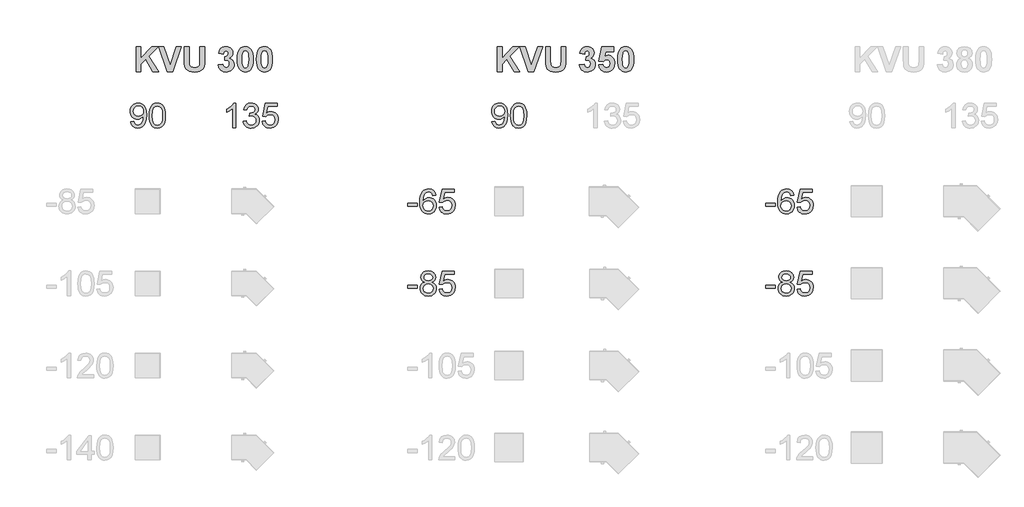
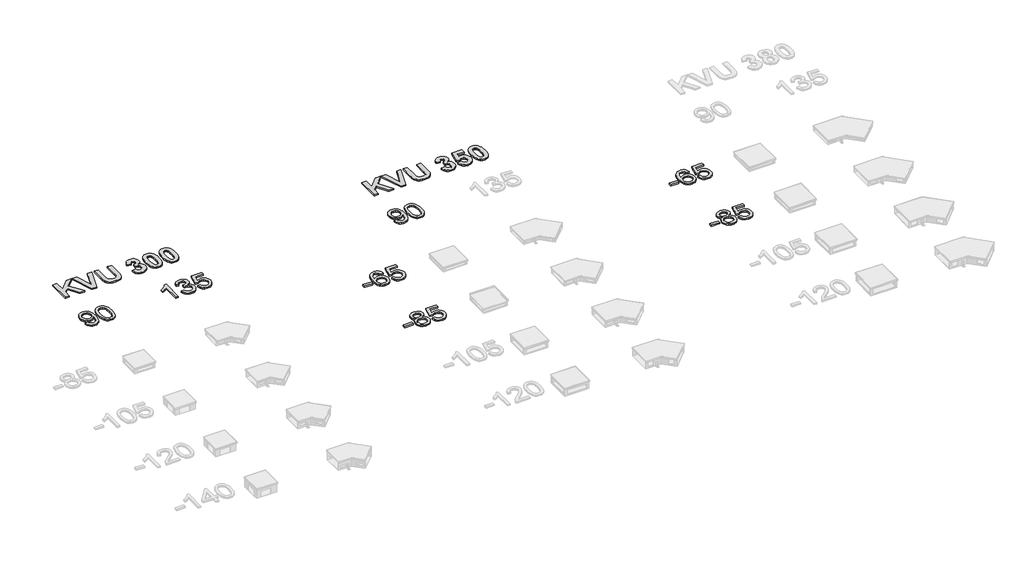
# One storey, part 5 of 6: 9 proxies.
"""IFC4 building model written with IfcOpenShell, lengths in millimetres."""

import ifcopenshell
import ifcopenshell.guid

model = None  # the IFC model being written
_history = None  # IfcOwnerHistory: only IFC2X3 demands one
_inside = {}  # id of a spatial element -> (the spatial element, [elements in it])
_under = {}  # id of a project, library or spatial element -> (it, [spatial elements below it])
_declared = {}  # id of a project -> (the project, [libraries it declares])
_typed = {}  # id of a type object -> (the type object, [elements of that type])
_made_of = {}  # id of a material, layer set ... -> (it, [elements and type objects made of it])


def new_model(schema):
    """Start an empty IFC model of exactly this schema.

    Asked for "IFC4X3", IfcOpenShell would pick the latest addendum, in which some entities
    have other attributes; the version numbers below select the first issue.
    IFC2X3 requires an IfcOwnerHistory on every rooted entity: one is made here for all.
    """
    global model, _history
    if schema == "IFC4X3":
        model = ifcopenshell.file(schema_version=(4, 3, 0, 0))
    else:
        model = ifcopenshell.file(schema=schema)
    _inside.clear()
    _under.clear()
    _declared.clear()
    _typed.clear()
    _made_of.clear()
    _history = None
    if model.schema == "IFC2X3":
        org = make("IfcOrganization", Name="unknown")
        user = make(
            "IfcPersonAndOrganization",
            ThePerson=make("IfcPerson", FamilyName="unknown"),
            TheOrganization=org,
        )
        app = make(
            "IfcApplication",
            ApplicationDeveloper=org,
            Version="unknown",
            ApplicationFullName="unknown",
            ApplicationIdentifier="unknown",
        )
        _history = make(
            "IfcOwnerHistory",
            OwningUser=user,
            OwningApplication=app,
            ChangeAction="ADDED",
            CreationDate=0,
        )
    return model


def make(cls, **values):
    """One entity of the class cls with the attributes given. An attribute that is None is left unset."""
    return model.create_entity(
        cls, **{name: value for name, value in values.items() if value is not None}
    )


def rooted(cls, **values):
    """An entity with a GlobalId (a new one), such as an element, a storey or a relation."""
    return make(cls, GlobalId=ifcopenshell.guid.new(), OwnerHistory=_history, **values)


def si_unit(unit_type, name, prefix=None):
    """IfcSIUnit, for example si_unit("LENGTHUNIT", "METRE", prefix="MILLI")."""
    return make("IfcSIUnit", UnitType=unit_type, Prefix=prefix, Name=name)


def assignment(units):
    """IfcUnitAssignment: the units of a project."""
    return None if units is None else make("IfcUnitAssignment", Units=units)


def point(xyz):
    """IfcCartesianPoint."""
    return None if xyz is None else make("IfcCartesianPoint", Coordinates=xyz)


def direction(xyz):
    """IfcDirection."""
    return None if xyz is None else make("IfcDirection", DirectionRatios=xyz)


def frame(location, z_axis=None, x_axis=None):
    """IfcAxis2Placement3D, a coordinate frame: its origin and axes. An axis left out is left unset."""
    return make(
        "IfcAxis2Placement3D",
        Location=point(location),
        Axis=direction(z_axis),
        RefDirection=direction(x_axis),
    )


def origin():
    """The frame at (0, 0, 0) with its axes left unset."""
    return frame((0.0, 0.0, 0.0))


def origin_with_axes():
    """The frame at (0, 0, 0) with the z axis (0, 0, 1) and the x axis (1, 0, 0) written out."""
    return frame((0.0, 0.0, 0.0), z_axis=(0.0, 0.0, 1.0), x_axis=(1.0, 0.0, 0.0))


def place(relative_to, where):
    """IfcLocalPlacement: puts the frame where relative to a parent placement (None: the world)."""
    return make(
        "IfcLocalPlacement", PlacementRelTo=relative_to, RelativePlacement=where
    )


def context(
    kind, dimensions, precision=None, world=None, true_north=None, identifier=None
):
    """IfcGeometricRepresentationContext, for example the 3D "Model" context."""
    return make(
        "IfcGeometricRepresentationContext",
        ContextIdentifier=identifier,
        ContextType=kind,
        CoordinateSpaceDimension=dimensions,
        Precision=precision,
        WorldCoordinateSystem=world,
        TrueNorth=true_north,
    )


def project(units=None, contexts=None):
    """IfcProject with its units and contexts."""
    return rooted(
        "IfcProject",
        Name="project",
        RepresentationContexts=contexts,
        UnitsInContext=assignment(units),
    )


def spatial(cls, under=None, at=None, **own):
    """A site, building, storey or space (cls), placed at a placement, below another one or the project."""
    s = rooted(cls, ObjectPlacement=at, **own)
    if under is not None:
        _under.setdefault(under.id(), (under, []))[1].append(s)
    return s


def polyline(points):
    """IfcPolyline through the points."""
    return make("IfcPolyline", Points=[point(p) for p in points])


def outline(outer, holes=None, kind="AREA"):
    """IfcArbitraryClosedProfileDef: a profile drawn as a closed curve; with holes, ...WithVoids."""
    if holes is None:
        return make("IfcArbitraryClosedProfileDef", ProfileType=kind, OuterCurve=outer)
    return make(
        "IfcArbitraryProfileDefWithVoids",
        ProfileType=kind,
        OuterCurve=outer,
        InnerCurves=holes,
    )


def extrude(swept, where, along, depth):
    """IfcExtrudedAreaSolid: the profile swept, set in the frame where, extruded along a direction by depth."""
    return make(
        "IfcExtrudedAreaSolid",
        SweptArea=swept,
        Position=where,
        ExtrudedDirection=direction(along),
        Depth=depth,
    )


def shape(context_of_items, identifier, shape_type, items):
    """IfcShapeRepresentation: the items that make up one representation, for example the "Body"."""
    return make(
        "IfcShapeRepresentation",
        ContextOfItems=context_of_items,
        RepresentationIdentifier=identifier,
        RepresentationType=shape_type,
        Items=items,
    )


def made_of(thing, what):
    """Note that an element or type object is made of a material, layer set ...; save() writes the relation."""
    if what is not None:
        _made_of.setdefault(what.id(), (what, []))[1].append(thing)
    return thing


def element(
    cls,
    number,
    at=None,
    inside=None,
    cuts=None,
    type_object=None,
    material=None,
    context=None,
    identifier="Body",
    shape_type=None,
    held_by="IfcProductDefinitionShape",
    body=None,
    shapes=None,
    **own,
):
    """One element of the class cls, such as IfcWall. Its Tag is "e" and its number.

    at: its placement. inside: the storey or other place that contains it. cuts: it is an
    opening in that element (IfcRelVoidsElement). A single representation is given by context,
    identifier, shape_type and body (its items); several are given by shapes. held_by: the class
    of the entity that holds the representations. save() writes the other relations.
    """
    e = rooted(cls, Tag="e%d" % number, ObjectPlacement=at, **own)
    if body is not None:
        shapes = [shape(context, identifier, shape_type, body)]
    if shapes is not None:
        e.Representation = make(held_by, Representations=shapes)
    if inside is not None:
        _inside.setdefault(inside.id(), (inside, []))[1].append(e)
    if cuts is not None:
        rooted(
            "IfcRelVoidsElement", RelatingBuildingElement=cuts, RelatedOpeningElement=e
        )
    if type_object is not None:
        _typed.setdefault(type_object.id(), (type_object, []))[1].append(e)
    return made_of(e, material)


def aggregate(whole, parts):
    """IfcRelAggregates: a whole, such as a stair, and the parts it consists of."""
    return rooted("IfcRelAggregates", RelatingObject=whole, RelatedObjects=parts)


def save(model, path):
    """Write the relations noted so far, then the file.

    IfcRelAggregates (storeys below a building ...), IfcRelContainedInSpatialStructure (elements
    in a storey), IfcRelDefinesByType, IfcRelAssociatesMaterial and IfcRelDeclares: one each for
    every whole, place, type object, material and project.
    """
    for whole, parts in _under.values():
        aggregate(whole, parts)
    for where, things in _inside.values():
        rooted(
            "IfcRelContainedInSpatialStructure",
            RelatedElements=things,
            RelatingStructure=where,
        )
    for kind, things in _typed.values():
        rooted("IfcRelDefinesByType", RelatedObjects=things, RelatingType=kind)
    for what, things in _made_of.values():
        rooted("IfcRelAssociatesMaterial", RelatedObjects=things, RelatingMaterial=what)
    for by, libraries in _declared.values():
        rooted("IfcRelDeclares", RelatingContext=by, RelatedDefinitions=libraries)
    model.write(path)


model = new_model("IFC4")

# Units and contexts
model_context = context("Model", 3, world=origin())
ifc_project = project(units=[si_unit("LENGTHUNIT", "METRE", prefix="MILLI")], contexts=[model_context])

# Site, building, storey
site = spatial("IfcSite", under=ifc_project)
building = spatial("IfcBuilding", under=site)
storey = spatial("IfcBuildingStorey", under=building, Name="Этаж 01", Elevation=0.0)

# Proxies
placement = place(None, origin())
element("IfcBuildingElementProxy", 1, Name="300", ObjectType="300", at=placement, inside=storey, context=model_context, shape_type="SweptSolid", body=[
    extrude(outline(polyline([(10271.5266107, 2189.3511025), (10309.197727, 2194.0599921), (10315.6356619, 2172.6768511), (10326.1202987, 2158.1179211), (10340.3941202, 2149.7578028), (10358.1996087, 2146.9710967), (10374.1748844, 2148.7645214), (10388.6970261, 2154.1447956), (10400.7635556, 2162.523308), (10409.3719943, 2173.3114475), (10421.6960411, 2206.0529451), (10427.1406946, 2249.7573261), (10426.9199654, 2257.114966), (10413.8693516, 2241.1856756), (10396.79043, 2228.5673232), (10376.9156052, 2220.3451606), (10355.477282, 2217.6044398), (10337.5821222, 2219.2783028), (10321.1263007, 2224.2998921), (10306.1098175, 2232.6692075), (10292.5326726, 2244.386249), (10281.2823813, 2258.8394129), (10273.246459, 2275.4170953), (10268.4249056, 2294.1192962), (10266.8177211, 2314.9460157), (10268.5030805, 2336.4671124), (10273.5591587, 2355.7809171), (10281.9859556, 2372.8874299), (10293.7834714, 2387.7866507), (10308.1193729, 2399.8577787), (10324.1613271, 2408.4800129), (10341.9093341, 2413.6533535), (10361.3633939, 2415.3778004), (10389.4603813, 2411.441463), (10415.037377, 2399.632451), (10436.429715, 2380.5393754), (10451.9727293, 2354.7508476), (10461.4364936, 2319.1030822), (10464.5910817, 2270.4322943), (10461.4456907, 2218.8276474), (10452.0095175, 2178.9400421), (10436.3653357, 2148.9668565), (10414.5959186, 2127.1054689), (10387.6393654, 2113.7513525), (10356.4337752, 2109.2999804), (10324.2257065, 2114.5514959), (10298.5291491, 2130.3060423), (10280.5581136, 2155.5703383), (10271.5266107, 2189.3511025)]), holes=[polyline([(10426.9199654, 2315.8289325), (10422.8548694, 2341.3599429), (10410.6595812, 2361.0048415), (10391.7320526, 2373.5312234), (10367.470235, 2377.7066841), (10342.3071065, 2373.2093267), (10322.1471732, 2359.7172545), (10308.9034214, 2339.0698775), (10304.4888374, 2313.1066057), (10308.6642981, 2289.8288725), (10321.19068, 2271.3519992), (10340.8539727, 2259.2946669), (10366.4401654, 2255.2755561), (10390.508845, 2259.2946669), (10409.8870291, 2271.3519992), (10422.6617313, 2290.5094541), (10426.9199654, 2315.8289325)])]), origin_with_axes(), (0.0, 0.0, 1.0), 20.0),
    extrude(outline(polyline([(10497.5533085, 2262.265314), (10500.3216205, 2310.5038406), (10508.6265566, 2348.9751002), (10522.3853432, 2378.2677041), (10541.5152069, 2398.9702634), (10566.1541036, 2411.2759161), (10596.4399888, 2415.3778004), (10619.6533427, 2412.9497792), (10640.4386754, 2405.6657157), (10657.8210997, 2393.8107184), (10670.8257282, 2377.6698959), (10680.6481775, 2357.3812038), (10688.484064, 2333.082598), (10693.6160178, 2302.2264957), (10695.3266691, 2262.265314), (10692.5859482, 2214.3026988), (10684.3637857, 2175.9234097), (10670.6877725, 2146.6032147), (10651.5854999, 2125.817882), (10626.891421, 2113.4294558), (10596.4399888, 2109.2999804), (10575.6914443, 2111.0934051), (10557.2973445, 2116.4736793), (10541.2576895, 2125.4408029), (10527.5724793, 2137.994776), (10514.4390921, 2160.6884966), (10505.0581012, 2188.9648264), (10499.4295067, 2222.8237656), (10497.5533085, 2262.265314)]), holes=[polyline([(10535.2244248, 2262.3388904), (10539.6390087, 2203.082298), (10545.1572387, 2182.8142993), (10552.8827606, 2168.786499), (10572.6012355, 2152.4249473), (10596.4399888, 2146.9710967), (10620.2787421, 2152.4433414), (10639.997217, 2168.8600754), (10647.7227389, 2182.9108683), (10653.2409689, 2203.1742685), (10657.6555528, 2262.3388904), (10653.3881217, 2320.2619105), (10648.0538327, 2340.4632306), (10640.5858282, 2354.824424), (10620.9041415, 2371.986119), (10595.9985304, 2377.7066841), (10572.4172945, 2372.6667007), (10553.4713718, 2357.5467507), (10545.4883325, 2341.9117659), (10539.7861615, 2320.8321276), (10535.2244248, 2262.3388904)])]), origin_with_axes(), (0.0, 0.0, 1.0), 20.0),
])
element("IfcBuildingElementProxy", 2, Name="300", ObjectType="300", at=placement, inside=storey, context=model_context, shape_type="SweptSolid", body=[
    extrude(outline(polyline([(11552.7166136, 2114.0088699), (11515.0454973, 2114.0088699), (11515.0454973, 2348.8647356), (11479.3609437, 2323.4440898), (11439.7032647, 2304.4245906), (11439.7032647, 2340.0355677), (11469.2901741, 2356.130405), (11494.9223521, 2375.2786629), (11515.1282707, 2395.6409313), (11528.4364019, 2415.3778004), (11552.7166136, 2415.3778004), (11552.7166136, 2114.0088699)])), origin_with_axes(), (0.0, 0.0, 1.0), 20.0),
    extrude(outline(polyline([(11642.1855148, 2194.0599921), (11679.8566311, 2198.7688816), (11688.2903259, 2175.0956752), (11700.6419638, 2159.1112025), (11717.5185504, 2150.0061231), (11739.5270907, 2146.9710967), (11765.3524068, 2151.1465573), (11785.2916109, 2163.6729393), (11798.0387221, 2182.3613446), (11802.2877591, 2205.0228755), (11798.0755103, 2226.5347752), (11785.4387637, 2243.9815788), (11766.3089, 2255.5422705), (11742.6172995, 2259.3958344), (11716.2033722, 2255.2755561), (11720.397227, 2292.9466724), (11726.4304917, 2292.505214), (11749.0000521, 2295.2091466), (11769.1783795, 2303.3209446), (11783.4154128, 2317.042943), (11788.1610905, 2336.577477), (11784.7213938, 2352.8470582), (11774.4023039, 2366.0448248), (11758.6569545, 2374.7912192), (11738.9384795, 2377.7066841), (11719.1832164, 2374.7636281), (11703.0331968, 2365.9344602), (11691.2425789, 2351.2191804), (11684.5655207, 2330.6177887), (11646.8944044, 2335.3266782), (11657.9860465, 2369.1534277), (11677.7229155, 2394.4085266), (11704.725454, 2410.1354819), (11737.6141044, 2415.3778004), (11761.2965078, 2412.7934293), (11783.0475308, 2405.0403163), (11801.3864482, 2392.80824), (11814.8325351, 2376.7869791), (11823.0822889, 2358.3285), (11825.8322068, 2338.784769), (11823.2202446, 2320.5746102), (11815.3843581, 2304.0567086), (11802.4349119, 2289.9852223), (11784.4822705, 2279.1143093), (11808.0635064, 2269.5861657), (11825.5379012, 2253.3625697), (11836.3536319, 2231.3264382), (11839.9588754, 2204.3606879), (11838.1562536, 2185.2492183), (11832.7483883, 2167.6460648), (11823.7352794, 2151.5512275), (11811.116927, 2136.9647064), (11795.7440581, 2124.8613888), (11778.4673999, 2116.2161619), (11759.2869524, 2111.0290257), (11738.2027156, 2109.2999804), (11719.1464282, 2110.7761069), (11701.782398, 2115.2044864), (11686.110625, 2122.5851189), (11672.1311092, 2132.9180045), (11660.4094691, 2145.5961377), (11651.5113234, 2160.0125134), (11645.4366719, 2176.1671315), (11642.1855148, 2194.0599921)])), origin_with_axes(), (0.0, 0.0, 1.0), 20.0),
    extrude(outline(polyline([(11872.9211022, 2194.0599921), (11910.5922185, 2198.7688816), (11917.5084, 2176.1533359), (11929.5749294, 2159.9573311), (11946.7366245, 2150.2176553), (11968.9383029, 2146.9710967), (11995.9408414, 2151.4868482), (12016.1743511, 2165.0341026), (12028.8110976, 2186.0493616), (12033.0233465, 2212.9691266), (12029.0778121, 2238.3161961), (12017.2412089, 2257.7035772), (11997.4215664, 2270.00923), (11969.5269141, 2274.1111142), (11951.252376, 2272.4740393), (11936.4543228, 2267.5628147), (11915.301108, 2250.5666665), (11877.6299917, 2255.2755561), (11910.5922185, 2410.6689108), (12056.5677942, 2410.6689108), (12056.5677942, 2372.9977945), (11941.0528477, 2372.9977945), (11924.9396163, 2290.0036164), (11951.8501843, 2306.337577), (11980.0483392, 2311.7822305), (11998.3941544, 2310.0945719), (12015.2454491, 2305.0315959), (12030.6022231, 2296.5933026), (12044.4644765, 2284.7796921), (12055.9400955, 2270.3127326), (12064.1369662, 2253.9143927), (12069.0550887, 2235.5846723), (12070.6944628, 2215.3235714), (12064.7899568, 2177.6524551), (12057.4093242, 2160.858642), (12047.0764387, 2145.4259923), (12031.4230598, 2129.6208621), (12013.1577187, 2118.3314834), (11992.2804155, 2111.5578561), (11968.7911501, 2109.2999804), (11931.7914185, 2115.1033188), (11916.1127477, 2122.3574919), (11902.3148736, 2132.5133343), (11890.8346561, 2145.0650081), (11882.108955, 2159.5066757), (11872.9211022, 2194.0599921)])), origin_with_axes(), (0.0, 0.0, 1.0), 20.0),
])
element("IfcBuildingElementProxy", 3, Name="300", ObjectType="300", at=placement, inside=storey, context=model_context, shape_type="SweptSolid", body=[
    extrude(outline(polyline([(14671.5266107, 2189.3511025), (14709.197727, 2194.0599921), (14715.6356619, 2172.6768511), (14726.1202987, 2158.1179211), (14740.3941202, 2149.7578028), (14758.1996087, 2146.9710967), (14774.1748844, 2148.7645214), (14788.6970261, 2154.1447956), (14800.7635556, 2162.523308), (14809.3719943, 2173.3114475), (14821.6960411, 2206.0529451), (14827.1406946, 2249.7573261), (14826.9199654, 2257.114966), (14813.8693516, 2241.1856756), (14796.79043, 2228.5673232), (14776.9156052, 2220.3451606), (14755.477282, 2217.6044398), (14737.5821222, 2219.2783028), (14721.1263007, 2224.2998921), (14706.1098175, 2232.6692075), (14692.5326726, 2244.386249), (14681.2823813, 2258.8394129), (14673.246459, 2275.4170953), (14668.4249056, 2294.1192962), (14666.8177211, 2314.9460157), (14668.5030805, 2336.4671124), (14673.5591587, 2355.7809171), (14681.9859556, 2372.8874299), (14693.7834714, 2387.7866507), (14708.1193729, 2399.8577787), (14724.1613271, 2408.4800129), (14741.9093341, 2413.6533535), (14761.3633939, 2415.3778004), (14789.4603813, 2411.441463), (14815.037377, 2399.632451), (14836.429715, 2380.5393754), (14851.9727293, 2354.7508476), (14861.4364936, 2319.1030822), (14864.5910817, 2270.4322943), (14861.4456907, 2218.8276474), (14852.0095175, 2178.9400421), (14836.3653357, 2148.9668565), (14814.5959186, 2127.1054689), (14787.6393654, 2113.7513525), (14756.4337752, 2109.2999804), (14724.2257065, 2114.5514959), (14698.5291491, 2130.3060423), (14680.5581136, 2155.5703383), (14671.5266107, 2189.3511025)]), holes=[polyline([(14826.9199654, 2315.8289325), (14822.8548694, 2341.3599429), (14810.6595812, 2361.0048415), (14791.7320526, 2373.5312234), (14767.470235, 2377.7066841), (14742.3071065, 2373.2093267), (14722.1471732, 2359.7172545), (14708.9034214, 2339.0698775), (14704.4888374, 2313.1066057), (14708.6642981, 2289.8288725), (14721.19068, 2271.3519992), (14740.8539727, 2259.2946669), (14766.4401654, 2255.2755561), (14790.508845, 2259.2946669), (14809.8870291, 2271.3519992), (14822.6617313, 2290.5094541), (14826.9199654, 2315.8289325)])]), origin_with_axes(), (0.0, 0.0, 1.0), 20.0),
    extrude(outline(polyline([(14897.5533085, 2262.265314), (14900.3216205, 2310.5038406), (14908.6265566, 2348.9751002), (14922.3853432, 2378.2677041), (14941.5152069, 2398.9702634), (14966.1541036, 2411.2759161), (14996.4399888, 2415.3778004), (15019.6533427, 2412.9497792), (15040.4386754, 2405.6657157), (15057.8210997, 2393.8107184), (15070.8257282, 2377.6698959), (15080.6481775, 2357.3812038), (15088.484064, 2333.082598), (15093.6160178, 2302.2264957), (15095.3266691, 2262.265314), (15092.5859482, 2214.3026988), (15084.3637857, 2175.9234097), (15070.6877725, 2146.6032147), (15051.5854999, 2125.817882), (15026.891421, 2113.4294558), (14996.4399888, 2109.2999804), (14975.6914443, 2111.0934051), (14957.2973445, 2116.4736793), (14941.2576895, 2125.4408029), (14927.5724793, 2137.994776), (14914.4390921, 2160.6884966), (14905.0581012, 2188.9648264), (14899.4295067, 2222.8237656), (14897.5533085, 2262.265314)]), holes=[polyline([(14935.2244248, 2262.3388904), (14939.6390087, 2203.082298), (14945.1572387, 2182.8142993), (14952.8827606, 2168.786499), (14972.6012355, 2152.4249473), (14996.4399888, 2146.9710967), (15020.2787421, 2152.4433414), (15039.997217, 2168.8600754), (15047.7227389, 2182.9108683), (15053.2409689, 2203.1742685), (15057.6555528, 2262.3388904), (15053.3881217, 2320.2619105), (15048.0538327, 2340.4632306), (15040.5858282, 2354.824424), (15020.9041415, 2371.986119), (14995.9985304, 2377.7066841), (14972.4172945, 2372.6667007), (14953.4713718, 2357.5467507), (14945.4883325, 2341.9117659), (14939.7861615, 2320.8321276), (14935.2244248, 2262.3388904)])]), origin_with_axes(), (0.0, 0.0, 1.0), 20.0),
])
element("IfcBuildingElementProxy", 4, Name="300", ObjectType="300", at=placement, inside=storey, context=model_context, shape_type="SweptSolid", body=[
    extrude(outline(polyline([(13646.6903592, 157.6054217), (13646.6903592, 195.276538), (13764.4125977, 195.276538), (13764.4125977, 157.6054217), (13646.6903592, 157.6054217)])), origin_with_axes(), (0.0, 0.0, 1.0), 20.0),
    extrude(outline(polyline([(13852.2628181, 234.1248767), (13832.0936877, 244.0576906), (13817.939428, 257.5221716), (13809.5793096, 274.2424083), (13806.7926035, 293.9424891), (13808.3101167, 309.3061609), (13812.8626564, 323.3914428), (13820.4502226, 336.1983348), (13831.0728152, 347.7268368), (13844.219998, 357.2549805), (13859.3813347, 364.0607974), (13895.74647, 369.5054509), (13932.3323344, 363.9320387), (13947.659218, 356.9652734), (13961.0087359, 347.211802), (13971.8244666, 335.4579723), (13979.5499885, 322.4901319), (13984.1853016, 308.308281), (13985.730406, 292.9124195), (13982.9804881, 273.8469351), (13974.7307343, 257.411807), (13960.8891742, 244.0300994), (13941.3638374, 234.1248767), (13964.5496001, 222.1779089), (13981.4261866, 204.5839525), (13991.7176854, 182.189136), (13995.148185, 155.8395881), (13993.4467308, 137.0500152), (13988.3423681, 119.8239408), (13979.835097, 104.1613649), (13967.9249174, 90.0622874), (13953.2372287, 78.4096252), (13936.3974304, 70.0862951), (13917.4055224, 65.092297), (13896.2615047, 63.4276309), (13875.1174871, 65.0991948), (13856.1255791, 70.1138862), (13839.2857807, 78.4717053), (13824.5980921, 90.172652), (13812.6879125, 104.3705977), (13804.1806414, 120.2194139), (13799.0762787, 137.7191006), (13797.3748244, 156.8696577), (13800.9432798, 184.2400782), (13811.6486459, 206.7544563), (13828.9390996, 223.6402398), (13852.2628181, 234.1248767)]), holes=[polyline([(13844.4637198, 292.8388431), (13847.8022489, 276.3945179), (13857.8178362, 263.2611307), (13874.2161762, 254.652692), (13896.7029631, 251.7832125), (13918.6655183, 254.6342979), (13934.8155378, 263.1875543), (13944.7483517, 275.8794832), (13948.0592897, 291.146586), (13944.6379871, 306.9931029), (13934.3740794, 320.098899), (13918.0033307, 328.9004757), (13896.2615047, 331.8343346), (13874.3817231, 328.9648551), (13858.0385654, 320.3564164), (13847.8574312, 307.7380639), (13844.4637198, 292.8388431)]), polyline([(13835.0459407, 158.1940329), (13841.3367229, 129.8303311), (13850.0463291, 117.6626341), (13863.5935836, 108.6035399), (13879.8171796, 102.9749454), (13896.5558103, 101.0987472), (13922.1971854, 105.0442816), (13941.4374138, 116.8808848), (13953.467155, 134.8059351), (13957.4770687, 157.0168105), (13953.3383963, 179.604765), (13940.922379, 197.9252884), (13921.2406922, 210.0653942), (13895.3050116, 214.1120962), (13870.0223214, 210.1205765), (13850.9752311, 198.1460176), (13839.0282633, 180.1749821), (13835.0459407, 158.1940329)])]), origin_with_axes(), (0.0, 0.0, 1.0), 20.0),
    extrude(outline(polyline([(14028.1104118, 148.1876426), (14065.7815281, 152.8965322), (14072.6977096, 130.2809865), (14084.7642391, 114.0849817), (14101.9259341, 104.3453059), (14124.1276126, 101.0987472), (14151.130151, 105.6144987), (14171.3636607, 119.1617532), (14184.0004073, 140.1770122), (14188.2126561, 167.0967772), (14184.2671217, 192.4438466), (14172.4305185, 211.8312278), (14152.610876, 224.1368805), (14124.7162238, 228.2387648), (14106.4416856, 226.6016899), (14091.6436324, 221.6904653), (14070.4904177, 204.6943171), (14032.8193014, 209.4032066), (14065.7815281, 364.7965614), (14211.7571038, 364.7965614), (14211.7571038, 327.1254451), (14096.2421573, 327.1254451), (14080.1289259, 244.131267), (14107.0394939, 260.4652276), (14135.2376488, 265.9098811), (14153.5834641, 264.2222224), (14170.4347587, 259.1592465), (14185.7915327, 250.7209532), (14199.6537862, 238.9073426), (14211.1294052, 224.4403832), (14219.3262759, 208.0420432), (14224.2443983, 189.7123228), (14225.8837724, 169.4512219), (14219.9792664, 131.7801056), (14212.5986339, 114.9862926), (14202.2657483, 99.5536429), (14186.6123694, 83.7485126), (14168.3470284, 72.4591339), (14147.4697252, 65.6855067), (14123.9804598, 63.4276309), (14086.9807281, 69.2309694), (14071.3020573, 76.4851425), (14057.5041832, 86.6409848), (14046.0239657, 99.1926587), (14037.2982646, 113.6343262), (14028.1104118, 148.1876426)])), origin_with_axes(), (0.0, 0.0, 1.0), 20.0),
])
element("IfcBuildingElementProxy", 5, Name="300", ObjectType="300", at=placement, inside=storey, context=model_context, shape_type="SweptSolid", body=[
    extrude(outline(polyline([(13646.6903592, 1157.6054217), (13646.6903592, 1195.276538), (13764.4125977, 1195.276538), (13764.4125977, 1157.6054217), (13646.6903592, 1157.6054217)])), origin_with_axes(), (0.0, 0.0, 1.0), 20.0),
    extrude(outline(polyline([(13990.4392955, 1289.4543288), (13952.7681792, 1284.7454392), (13946.6981263, 1303.4154505), (13938.4943578, 1316.1625616), (13921.4062391, 1327.9163914), (13900.7496651, 1331.8343346), (13883.2384821, 1329.5534662), (13866.7573687, 1322.7108611), (13852.603109, 1308.299084), (13841.0424173, 1288.4610474), (13833.2341219, 1260.4008482), (13830.3370512, 1221.3225833), (13845.4478042, 1238.9533279), (13863.5567954, 1251.3785423), (13883.6523494, 1258.7453792), (13904.7227906, 1261.2009915), (13922.8225848, 1259.5225299), (13939.5244274, 1254.4871451), (13954.8283184, 1246.0948371), (13968.7342578, 1234.3456059), (13980.290351, 1219.9384273), (13988.5447032, 1203.572277), (13993.4973146, 1185.2471551), (13995.148185, 1164.9630616), (13992.0395822, 1137.9881143), (13982.7137736, 1112.9813357), (13967.9433115, 1091.7729387), (13948.5007481, 1076.1931362), (13925.2690001, 1066.6190072), (13899.1309843, 1063.4276309), (13876.6740878, 1065.5429524), (13856.3922935, 1071.8889168), (13838.2856016, 1082.4655242), (13822.3540119, 1097.2727745), (13809.3654782, 1116.9360671), (13800.0879542, 1142.0808015), (13794.5214397, 1172.7069776), (13792.6659349, 1208.8145954), (13794.7260741, 1249.2954105), (13800.9064916, 1283.8441283), (13811.2071875, 1312.460749), (13825.6281617, 1335.1452726), (13841.2585479, 1350.1778506), (13859.3813347, 1360.9154063), (13879.996522, 1367.3579398), (13903.1041099, 1369.5054509), (13936.1583071, 1364.1895561), (13962.6274167, 1348.2418716), (13981.1686692, 1322.9131962), (13990.4392955, 1289.4543288)]), holes=[polyline([(13830.3370512, 1165.5516728), (13832.516752, 1148.8590273), (13839.0558545, 1132.9205398), (13849.2093976, 1119.2169355), (13862.2324202, 1109.2289393), (13877.9501784, 1103.1312953), (13896.1879283, 1101.0987472), (13921.0475542, 1105.3109961), (13940.5912852, 1117.9477426), (13953.2556228, 1137.8133704), (13957.4770687, 1163.7122628), (13953.3108051, 1188.5718886), (13940.8120144, 1207.5270084), (13920.9371896, 1219.5291585), (13894.642824, 1223.5298752), (13869.8199863, 1219.5291585), (13849.0622448, 1207.5270084), (13835.0183496, 1189.0317411), (13830.3370512, 1165.5516728)])]), origin_with_axes(), (0.0, 0.0, 1.0), 20.0),
    extrude(outline(polyline([(14028.1104118, 1148.1876426), (14065.7815281, 1152.8965322), (14072.6977096, 1130.2809865), (14084.7642391, 1114.0849817), (14101.9259341, 1104.3453059), (14124.1276126, 1101.0987472), (14151.130151, 1105.6144987), (14171.3636607, 1119.1617532), (14184.0004073, 1140.1770122), (14188.2126561, 1167.0967772), (14184.2671217, 1192.4438466), (14172.4305185, 1211.8312278), (14152.610876, 1224.1368805), (14124.7162238, 1228.2387648), (14106.4416856, 1226.6016899), (14091.6436324, 1221.6904653), (14070.4904177, 1204.6943171), (14032.8193014, 1209.4032066), (14065.7815281, 1364.7965614), (14211.7571038, 1364.7965614), (14211.7571038, 1327.1254451), (14096.2421573, 1327.1254451), (14080.1289259, 1244.131267), (14107.0394939, 1260.4652276), (14135.2376488, 1265.9098811), (14153.5834641, 1264.2222224), (14170.4347587, 1259.1592465), (14185.7915327, 1250.7209532), (14199.6537862, 1238.9073426), (14211.1294052, 1224.4403832), (14219.3262759, 1208.0420432), (14224.2443983, 1189.7123228), (14225.8837724, 1169.4512219), (14219.9792664, 1131.7801056), (14212.5986339, 1114.9862926), (14202.2657483, 1099.5536429), (14186.6123694, 1083.7485126), (14168.3470284, 1072.4591339), (14147.4697252, 1065.6855067), (14123.9804598, 1063.4276309), (14086.9807281, 1069.2309694), (14071.3020573, 1076.4851425), (14057.5041832, 1086.6409848), (14046.0239657, 1099.1926587), (14037.2982646, 1113.6343262), (14028.1104118, 1148.1876426)])), origin_with_axes(), (0.0, 0.0, 1.0), 20.0),
])
element("IfcBuildingElementProxy", 6, Name="300", ObjectType="300", at=placement, inside=storey, context=model_context, shape_type="SweptSolid", body=[
    extrude(outline(polyline([(18006.6903592, 157.6054217), (18006.6903592, 195.276538), (18124.4125977, 195.276538), (18124.4125977, 157.6054217), (18006.6903592, 157.6054217)])), origin_with_axes(), (0.0, 0.0, 1.0), 20.0),
    extrude(outline(polyline([(18212.2628181, 234.1248767), (18192.0936877, 244.0576906), (18177.939428, 257.5221716), (18169.5793096, 274.2424083), (18166.7926035, 293.9424891), (18168.3101167, 309.3061609), (18172.8626564, 323.3914428), (18180.4502226, 336.1983348), (18191.0728152, 347.7268368), (18204.219998, 357.2549805), (18219.3813347, 364.0607974), (18255.74647, 369.5054509), (18292.3323344, 363.9320387), (18307.659218, 356.9652734), (18321.0087359, 347.211802), (18331.8244666, 335.4579723), (18339.5499885, 322.4901319), (18344.1853016, 308.308281), (18345.730406, 292.9124195), (18342.9804881, 273.8469351), (18334.7307343, 257.411807), (18320.8891742, 244.0300994), (18301.3638374, 234.1248767), (18324.5496001, 222.1779089), (18341.4261866, 204.5839525), (18351.7176854, 182.189136), (18355.148185, 155.8395881), (18353.4467308, 137.0500152), (18348.3423681, 119.8239408), (18339.835097, 104.1613649), (18327.9249174, 90.0622874), (18313.2372287, 78.4096252), (18296.3974304, 70.0862951), (18277.4055224, 65.092297), (18256.2615047, 63.4276309), (18235.1174871, 65.0991948), (18216.1255791, 70.1138862), (18199.2857807, 78.4717053), (18184.5980921, 90.172652), (18172.6879125, 104.3705977), (18164.1806414, 120.2194139), (18159.0762787, 137.7191006), (18157.3748244, 156.8696577), (18160.9432798, 184.2400782), (18171.6486459, 206.7544563), (18188.9390996, 223.6402398), (18212.2628181, 234.1248767)]), holes=[polyline([(18204.4637198, 292.8388431), (18207.8022489, 276.3945179), (18217.8178362, 263.2611307), (18234.2161762, 254.652692), (18256.7029631, 251.7832125), (18278.6655183, 254.6342979), (18294.8155378, 263.1875543), (18304.7483517, 275.8794832), (18308.0592897, 291.146586), (18304.6379871, 306.9931029), (18294.3740794, 320.098899), (18278.0033307, 328.9004757), (18256.2615047, 331.8343346), (18234.3817231, 328.9648551), (18218.0385654, 320.3564164), (18207.8574312, 307.7380639), (18204.4637198, 292.8388431)]), polyline([(18195.0459407, 158.1940329), (18201.3367229, 129.8303311), (18210.0463291, 117.6626341), (18223.5935836, 108.6035399), (18239.8171796, 102.9749454), (18256.5558103, 101.0987472), (18282.1971854, 105.0442816), (18301.4374138, 116.8808848), (18313.467155, 134.8059351), (18317.4770687, 157.0168105), (18313.3383963, 179.604765), (18300.922379, 197.9252884), (18281.2406922, 210.0653942), (18255.3050116, 214.1120962), (18230.0223214, 210.1205765), (18210.9752311, 198.1460176), (18199.0282633, 180.1749821), (18195.0459407, 158.1940329)])]), origin_with_axes(), (0.0, 0.0, 1.0), 20.0),
    extrude(outline(polyline([(18388.1104118, 148.1876426), (18425.7815281, 152.8965322), (18432.6977096, 130.2809865), (18444.7642391, 114.0849817), (18461.9259341, 104.3453059), (18484.1276126, 101.0987472), (18511.130151, 105.6144987), (18531.3636607, 119.1617532), (18544.0004073, 140.1770122), (18548.2126561, 167.0967772), (18544.2671217, 192.4438466), (18532.4305185, 211.8312278), (18512.610876, 224.1368805), (18484.7162238, 228.2387648), (18466.4416856, 226.6016899), (18451.6436324, 221.6904653), (18430.4904177, 204.6943171), (18392.8193014, 209.4032066), (18425.7815281, 364.7965614), (18571.7571038, 364.7965614), (18571.7571038, 327.1254451), (18456.2421573, 327.1254451), (18440.1289259, 244.131267), (18467.0394939, 260.4652276), (18495.2376488, 265.9098811), (18513.5834641, 264.2222224), (18530.4347587, 259.1592465), (18545.7915327, 250.7209532), (18559.6537862, 238.9073426), (18571.1294052, 224.4403832), (18579.3262759, 208.0420432), (18584.2443983, 189.7123228), (18585.8837724, 169.4512219), (18579.9792664, 131.7801056), (18572.5986339, 114.9862926), (18562.2657483, 99.5536429), (18546.6123694, 83.7485126), (18528.3470284, 72.4591339), (18507.4697252, 65.6855067), (18483.9804598, 63.4276309), (18446.9807281, 69.2309694), (18431.3020573, 76.4851425), (18417.5041832, 86.6409848), (18406.0239657, 99.1926587), (18397.2982646, 113.6343262), (18388.1104118, 148.1876426)])), origin_with_axes(), (0.0, 0.0, 1.0), 20.0),
])
element("IfcBuildingElementProxy", 7, Name="300", ObjectType="300", at=placement, inside=storey, context=model_context, shape_type="SweptSolid", body=[
    extrude(outline(polyline([(18006.6903592, 1157.6054217), (18006.6903592, 1195.276538), (18124.4125977, 1195.276538), (18124.4125977, 1157.6054217), (18006.6903592, 1157.6054217)])), origin_with_axes(), (0.0, 0.0, 1.0), 20.0),
    extrude(outline(polyline([(18350.4392955, 1289.4543288), (18312.7681792, 1284.7454392), (18306.6981263, 1303.4154505), (18298.4943578, 1316.1625616), (18281.4062391, 1327.9163914), (18260.7496651, 1331.8343346), (18243.2384821, 1329.5534662), (18226.7573687, 1322.7108611), (18212.603109, 1308.299084), (18201.0424173, 1288.4610474), (18193.2341219, 1260.4008482), (18190.3370512, 1221.3225833), (18205.4478042, 1238.9533279), (18223.5567954, 1251.3785423), (18243.6523494, 1258.7453792), (18264.7227906, 1261.2009915), (18282.8225848, 1259.5225299), (18299.5244274, 1254.4871451), (18314.8283184, 1246.0948371), (18328.7342578, 1234.3456059), (18340.290351, 1219.9384273), (18348.5447032, 1203.572277), (18353.4973146, 1185.2471551), (18355.148185, 1164.9630616), (18352.0395822, 1137.9881143), (18342.7137736, 1112.9813357), (18327.9433115, 1091.7729387), (18308.5007481, 1076.1931362), (18285.2690001, 1066.6190072), (18259.1309843, 1063.4276309), (18236.6740878, 1065.5429524), (18216.3922935, 1071.8889168), (18198.2856016, 1082.4655242), (18182.3540119, 1097.2727745), (18169.3654782, 1116.9360671), (18160.0879542, 1142.0808015), (18154.5214397, 1172.7069776), (18152.6659349, 1208.8145954), (18154.7260741, 1249.2954105), (18160.9064916, 1283.8441283), (18171.2071875, 1312.460749), (18185.6281617, 1335.1452726), (18201.2585479, 1350.1778506), (18219.3813347, 1360.9154063), (18239.996522, 1367.3579398), (18263.1041099, 1369.5054509), (18296.1583071, 1364.1895561), (18322.6274167, 1348.2418716), (18341.1686692, 1322.9131962), (18350.4392955, 1289.4543288)]), holes=[polyline([(18190.3370512, 1165.5516728), (18192.516752, 1148.8590273), (18199.0558545, 1132.9205398), (18209.2093976, 1119.2169355), (18222.2324202, 1109.2289393), (18237.9501784, 1103.1312953), (18256.1879283, 1101.0987472), (18281.0475542, 1105.3109961), (18300.5912852, 1117.9477426), (18313.2556228, 1137.8133704), (18317.4770687, 1163.7122628), (18313.3108051, 1188.5718886), (18300.8120144, 1207.5270084), (18280.9371896, 1219.5291585), (18254.642824, 1223.5298752), (18229.8199863, 1219.5291585), (18209.0622448, 1207.5270084), (18195.0183496, 1189.0317411), (18190.3370512, 1165.5516728)])]), origin_with_axes(), (0.0, 0.0, 1.0), 20.0),
    extrude(outline(polyline([(18388.1104118, 1148.1876426), (18425.7815281, 1152.8965322), (18432.6977096, 1130.2809865), (18444.7642391, 1114.0849817), (18461.9259341, 1104.3453059), (18484.1276126, 1101.0987472), (18511.130151, 1105.6144987), (18531.3636607, 1119.1617532), (18544.0004073, 1140.1770122), (18548.2126561, 1167.0967772), (18544.2671217, 1192.4438466), (18532.4305185, 1211.8312278), (18512.610876, 1224.1368805), (18484.7162238, 1228.2387648), (18466.4416856, 1226.6016899), (18451.6436324, 1221.6904653), (18430.4904177, 1204.6943171), (18392.8193014, 1209.4032066), (18425.7815281, 1364.7965614), (18571.7571038, 1364.7965614), (18571.7571038, 1327.1254451), (18456.2421573, 1327.1254451), (18440.1289259, 1244.131267), (18467.0394939, 1260.4652276), (18495.2376488, 1265.9098811), (18513.5834641, 1264.2222224), (18530.4347587, 1259.1592465), (18545.7915327, 1250.7209532), (18559.6537862, 1238.9073426), (18571.1294052, 1224.4403832), (18579.3262759, 1208.0420432), (18584.2443983, 1189.7123228), (18585.8837724, 1169.4512219), (18579.9792664, 1131.7801056), (18572.5986339, 1114.9862926), (18562.2657483, 1099.5536429), (18546.6123694, 1083.7485126), (18528.3470284, 1072.4591339), (18507.4697252, 1065.6855067), (18483.9804598, 1063.4276309), (18446.9807281, 1069.2309694), (18431.3020573, 1076.4851425), (18417.5041832, 1086.6409848), (18406.0239657, 1099.1926587), (18397.2982646, 1113.6343262), (18388.1104118, 1148.1876426)])), origin_with_axes(), (0.0, 0.0, 1.0), 20.0),
])
element("IfcBuildingElementProxy", 8, Name="300_", ObjectType="300_", at=placement, inside=storey, context=model_context, shape_type="SweptSolid", body=[
    extrude(outline(polyline([(10336.673179, 2797.023962), (10336.673179, 3103.101782), (10394.9737162, 3103.101782), (10394.9737162, 2963.5752361), (10526.3017491, 3103.101782), (10606.3131633, 3103.101782), (10490.4712106, 2986.1970591), (10611.1715414, 2797.023962), (10543.0024238, 2797.023962), (10452.5910439, 2947.8614194), (10394.9737162, 2889.6367945), (10394.9737162, 2797.023962), (10336.673179, 2797.023962)])), origin_with_axes(), (0.0, 0.0, 1.0), 20.0),
    extrude(outline(polyline([(10716.7653528, 2797.023962), (10613.6007305, 3103.101782), (10675.0895782, 3103.101782), (10752.0645062, 2874.7580115), (10829.2671706, 3103.101782), (10890.5282819, 3103.101782), (10781.8979842, 2797.023962), (10716.7653528, 2797.023962)])), origin_with_axes(), (0.0, 0.0, 1.0), 20.0),
    extrude(outline(polyline([(10924.5369285, 3103.101782), (10982.8374657, 3103.101782), (10982.8374657, 2937.9928389), (10985.3425669, 2886.9798689), (10992.6491121, 2870.1368589), (11005.9147616, 2856.9566106), (11025.1395156, 2848.4449599), (11050.3233739, 2845.607743), (11075.4787652, 2848.2836465), (11093.5553477, 2856.3113572), (11105.1983749, 2868.239055), (11111.0531001, 2882.6149199), (11114.0136743, 2934.4249675), (11114.0136743, 3103.101782), (11172.3142114, 3103.101782), (11172.3142114, 2942.5475684), (11171.0426828, 2895.5389647), (11167.2280968, 2864.7376067), (11159.9974638, 2843.7953402), (11148.4777939, 2826.364011), (11132.5077737, 2812.2917948), (11111.9260899, 2801.4268672), (11085.5371261, 2794.4809047), (11052.1452657, 2792.1655839), (11013.0315264, 2794.6896632), (10984.6593575, 2802.2619009), (10964.0681847, 2813.876461), (10948.2974339, 2828.5275075), (10937.2142589, 2845.0953359), (10930.6858133, 2862.460242), (10926.0741497, 2894.9886016), (10924.5369285, 2940.0424672), (10924.5369285, 3103.101782)])), origin_with_axes(), (0.0, 0.0, 1.0), 20.0),
    extrude(outline(polyline([(11337.4990666, 2882.5769638), (11395.7996038, 2889.3331458), (11400.2973991, 2870.5828429), (11408.9324071, 2856.8427423), (11420.7557256, 2848.4164928), (11434.8184528, 2845.607743), (11449.9059942, 2848.8245207), (11462.3745661, 2858.4748537), (11470.7438815, 2873.5718841), (11473.5336533, 2893.1287537), (11470.981107, 2911.6323422), (11463.3234681, 2925.8468937), (11451.9840895, 2934.8994185), (11438.3863243, 2937.9169268), (11415.2331161, 2933.5899338), (11420.3192307, 2981.6423296), (11436.9155262, 2983.729914), (11449.0519824, 2991.2072615), (11456.4818849, 3003.0495581), (11458.958519, 3018.2319897), (11457.1081602, 3031.1275675), (11451.5570836, 3041.1195052), (11442.9315647, 3047.5245935), (11431.8578787, 3049.659623), (11420.5944123, 3047.1829888), (11411.0959036, 3039.7530864), (11404.1784082, 3027.559696), (11400.6579819, 3010.7925982), (11342.3574447, 3019.5224963), (11349.0282256, 3045.6078115), (11358.4128661, 3065.8668686), (11371.2799768, 3081.3624378), (11388.3981684, 3093.1572894), (11408.7900718, 3100.6156588), (11431.4783179, 3103.101782), (11450.8833632, 3101.3795249), (11468.2577583, 3096.2127537), (11483.6015032, 3087.6014683), (11496.9145979, 3075.5456688), (11512.1729416, 3051.5194708), (11517.2590561, 3024.5326988), (11514.530963, 3005.3980905), (11506.3466835, 2988.3036215), (11492.7062176, 2973.2492917), (11473.6095654, 2960.2351012), (11497.445983, 2951.1730873), (11515.9685495, 2935.2220452), (11527.8677802, 2913.7863496), (11531.8341904, 2888.2703756), (11530.0763495, 2869.076461), (11524.8028268, 2851.3485999), (11516.0136223, 2835.0867924), (11503.708736, 2820.2910384), (11488.7848802, 2807.9861521), (11472.1387674, 2799.1969475), (11453.7703975, 2793.9234248), (11433.6797705, 2792.1655839), (11414.6756362, 2793.7288999), (11397.365292, 2798.4188479), (11381.7487378, 2806.2354279), (11367.8259736, 2817.1786399), (11356.1236401, 2830.6459311), (11347.1683777, 2846.0347489), (11337.4990666, 2882.5769638)])), origin_with_axes(), (0.0, 0.0, 1.0), 20.0),
    extrude(outline(polyline([(11667.8687771, 3103.101782), (11688.4267383, 3101.1280659), (11706.6029556, 3095.2069176), (11722.3974289, 3085.3383371), (11735.8101583, 3071.5223244), (11748.5966123, 3049.7687467), (11757.7297938, 3021.8567952), (11763.2097027, 2987.7864699), (11765.036339, 2947.5577708), (11763.2002137, 2907.3670278), (11757.6918377, 2873.2587464), (11748.5112112, 2845.2329267), (11735.6583339, 2823.2895686), (11722.3120277, 2809.6728253), (11706.5649995, 2799.9465801), (11688.4172493, 2794.110833), (11667.8687771, 2792.1655839), (11647.0996852, 2794.3006134), (11628.4419002, 2800.7057017), (11611.895422, 2811.3808489), (11597.4602508, 2826.3260549), (11585.7531727, 2846.7511699), (11577.3909741, 2873.8660437), (11572.3736549, 2907.6706764), (11570.7012152, 2948.1650681), (11572.5373405, 2988.1565417), (11578.0457164, 3022.1224877), (11587.226343, 3050.0629063), (11600.0792202, 3071.9777973), (11613.4255265, 3085.5945406), (11629.1725547, 3095.3207858), (11647.3203049, 3101.156533), (11667.8687771, 3103.101782)]), holes=[polyline([(11667.8687771, 3049.659623), (11657.5826797, 3048.0559786), (11648.4352647, 3043.2450456), (11640.8440489, 3034.277922), (11635.2265493, 3020.2057058), (11630.5579516, 2991.2262396), (11629.0017523, 2947.5577708), (11630.3871492, 2904.4681323), (11634.5433398, 2877.376981), (11640.8155819, 2861.4733839), (11648.5491329, 2851.9464081), (11657.6111468, 2847.1924093), (11667.8687771, 2845.607743), (11678.1548745, 2847.2113873), (11687.3022895, 2852.0223203), (11694.8935052, 2860.9894439), (11700.5110049, 2875.0616602), (11705.1796026, 2903.8893021), (11706.7358018, 2947.5577708), (11705.350405, 2990.5999643), (11701.1942143, 3017.7006046), (11694.9219723, 3033.6516467), (11687.1884212, 3043.2450456), (11678.1264074, 3048.0559786), (11667.8687771, 3049.659623)])]), origin_with_axes(), (0.0, 0.0, 1.0), 20.0),
    extrude(outline(polyline([(11901.0709257, 3103.101782), (11921.6288869, 3101.1280659), (11939.8051041, 3095.2069176), (11955.5995775, 3085.3383371), (11969.0123068, 3071.5223244), (11981.7987609, 3049.7687467), (11990.9319424, 3021.8567952), (11996.4118513, 2987.7864699), (11998.2384876, 2947.5577708), (11996.4023622, 2907.3670278), (11990.8939863, 2873.2587464), (11981.7133597, 2845.2329267), (11968.8604825, 2823.2895686), (11955.5141763, 2809.6728253), (11939.7671481, 2799.9465801), (11921.6193978, 2794.110833), (11901.0709257, 2792.1655839), (11880.3018337, 2794.3006134), (11861.6440487, 2800.7057017), (11845.0975706, 2811.3808489), (11830.6623994, 2826.3260549), (11818.9553213, 2846.7511699), (11810.5931227, 2873.8660437), (11805.5758035, 2907.6706764), (11803.9033637, 2948.1650681), (11805.7394891, 2988.1565417), (11811.247865, 3022.1224877), (11820.4284916, 3050.0629063), (11833.2813688, 3071.9777973), (11846.627675, 3085.5945406), (11862.3747032, 3095.3207858), (11880.5224535, 3101.156533), (11901.0709257, 3103.101782)]), holes=[polyline([(11901.0709257, 3049.659623), (11890.7848283, 3048.0559786), (11881.6374133, 3043.2450456), (11874.0461975, 3034.277922), (11868.4286978, 3020.2057058), (11863.7601001, 2991.2262396), (11862.2039009, 2947.5577708), (11863.5892978, 2904.4681323), (11867.7454884, 2877.376981), (11874.0177304, 2861.4733839), (11881.7512815, 2851.9464081), (11890.8132953, 2847.1924093), (11901.0709257, 2845.607743), (11911.357023, 2847.2113873), (11920.504438, 2852.0223203), (11928.0956538, 2860.9894439), (11933.7131535, 2875.0616602), (11938.3817512, 2903.8893021), (11939.9379504, 2947.5577708), (11938.5525535, 2990.5999643), (11934.3963629, 3017.7006046), (11928.1241209, 3033.6516467), (11920.3905698, 3043.2450456), (11911.328556, 3048.0559786), (11901.0709257, 3049.659623)])]), origin_with_axes(), (0.0, 0.0, 1.0), 20.0),
])
element("IfcBuildingElementProxy", 9, Name="300_", ObjectType="300_", at=placement, inside=storey, context=model_context, shape_type="SweptSolid", body=[
    extrude(outline(polyline([(14736.673179, 2797.023962), (14736.673179, 3103.101782), (14794.9737162, 3103.101782), (14794.9737162, 2963.5752361), (14926.3017491, 3103.101782), (15006.3131633, 3103.101782), (14890.4712106, 2986.1970591), (15011.1715414, 2797.023962), (14943.0024238, 2797.023962), (14852.5910439, 2947.8614194), (14794.9737162, 2889.6367945), (14794.9737162, 2797.023962), (14736.673179, 2797.023962)])), origin_with_axes(), (0.0, 0.0, 1.0), 20.0),
    extrude(outline(polyline([(15116.7653528, 2797.023962), (15013.6007305, 3103.101782), (15075.0895782, 3103.101782), (15152.0645062, 2874.7580115), (15229.2671706, 3103.101782), (15290.5282819, 3103.101782), (15181.8979842, 2797.023962), (15116.7653528, 2797.023962)])), origin_with_axes(), (0.0, 0.0, 1.0), 20.0),
    extrude(outline(polyline([(15324.5369285, 3103.101782), (15382.8374657, 3103.101782), (15382.8374657, 2937.9928389), (15385.3425669, 2886.9798689), (15392.6491121, 2870.1368589), (15405.9147616, 2856.9566106), (15425.1395156, 2848.4449599), (15450.3233739, 2845.607743), (15475.4787652, 2848.2836465), (15493.5553477, 2856.3113572), (15505.1983749, 2868.239055), (15511.0531001, 2882.6149199), (15514.0136743, 2934.4249675), (15514.0136743, 3103.101782), (15572.3142114, 3103.101782), (15572.3142114, 2942.5475684), (15571.0426828, 2895.5389647), (15567.2280968, 2864.7376067), (15559.9974638, 2843.7953402), (15548.4777939, 2826.364011), (15532.5077737, 2812.2917948), (15511.9260899, 2801.4268672), (15485.5371261, 2794.4809047), (15452.1452657, 2792.1655839), (15413.0315264, 2794.6896632), (15384.6593575, 2802.2619009), (15364.0681847, 2813.876461), (15348.2974339, 2828.5275075), (15337.2142589, 2845.0953359), (15330.6858133, 2862.460242), (15326.0741497, 2894.9886016), (15324.5369285, 2940.0424672), (15324.5369285, 3103.101782)])), origin_with_axes(), (0.0, 0.0, 1.0), 20.0),
    extrude(outline(polyline([(15737.4990666, 2882.5769638), (15795.7996038, 2889.3331458), (15800.2973991, 2870.5828429), (15808.9324071, 2856.8427423), (15820.7557256, 2848.4164928), (15834.8184528, 2845.607743), (15849.9059942, 2848.8245207), (15862.3745661, 2858.4748537), (15870.7438815, 2873.5718841), (15873.5336533, 2893.1287537), (15870.981107, 2911.6323422), (15863.3234681, 2925.8468937), (15851.9840895, 2934.8994185), (15838.3863243, 2937.9169268), (15815.2331161, 2933.5899338), (15820.3192307, 2981.6423296), (15836.9155262, 2983.729914), (15849.0519824, 2991.2072615), (15856.4818849, 3003.0495581), (15858.958519, 3018.2319897), (15857.1081602, 3031.1275675), (15851.5570836, 3041.1195052), (15842.9315647, 3047.5245935), (15831.8578787, 3049.659623), (15820.5944123, 3047.1829888), (15811.0959036, 3039.7530864), (15804.1784082, 3027.559696), (15800.6579819, 3010.7925982), (15742.3574447, 3019.5224963), (15749.0282256, 3045.6078115), (15758.4128661, 3065.8668686), (15771.2799768, 3081.3624378), (15788.3981684, 3093.1572894), (15808.7900718, 3100.6156588), (15831.4783179, 3103.101782), (15850.8833632, 3101.3795249), (15868.2577583, 3096.2127537), (15883.6015032, 3087.6014683), (15896.9145979, 3075.5456688), (15912.1729416, 3051.5194708), (15917.2590561, 3024.5326988), (15914.530963, 3005.3980905), (15906.3466835, 2988.3036215), (15892.7062176, 2973.2492917), (15873.6095654, 2960.2351012), (15897.445983, 2951.1730873), (15915.9685495, 2935.2220452), (15927.8677802, 2913.7863496), (15931.8341904, 2888.2703756), (15930.0763495, 2869.076461), (15924.8028268, 2851.3485999), (15916.0136223, 2835.0867924), (15903.708736, 2820.2910384), (15888.7848802, 2807.9861521), (15872.1387674, 2799.1969475), (15853.7703975, 2793.9234248), (15833.6797705, 2792.1655839), (15814.6756362, 2793.7288999), (15797.365292, 2798.4188479), (15781.7487378, 2806.2354279), (15767.8259736, 2817.1786399), (15756.1236401, 2830.6459311), (15747.1683777, 2846.0347489), (15737.4990666, 2882.5769638)])), origin_with_axes(), (0.0, 0.0, 1.0), 20.0),
    extrude(outline(polyline([(15970.7012152, 2883.1842611), (16024.1433742, 2889.3331458), (16029.1156206, 2871.2470743), (16039.0221571, 2857.3741274), (16052.3447408, 2848.5493391), (16067.5651285, 2845.607743), (16084.5979188, 2848.7296305), (16098.8029814, 2858.0952929), (16108.3963803, 2873.7426864), (16111.5941799, 2895.7097671), (16108.6241168, 2916.3009399), (16099.7139273, 2931.0089204), (16086.0402498, 2939.8337088), (16068.779723, 2942.7753049), (16046.1958561, 2936.7023323), (16026.1170903, 2918.4834144), (15975.5595933, 2925.998718), (16009.5682399, 3098.2434039), (16155.3195828, 3098.2434039), (16155.3195828, 3039.9428668), (16056.7096899, 3039.9428668), (16044.9433055, 2984.2992552), (16063.5228061, 2993.2379117), (16082.5198235, 2996.2174639), (16100.083999, 2994.4928346), (16116.2627776, 2989.3189466), (16131.0561594, 2980.6957999), (16144.4641442, 2968.6233946), (16155.5900199, 2953.7991735), (16163.5370739, 2936.9205797), (16168.3053063, 2917.9876131), (16169.8947171, 2897.0002738), (16164.5998441, 2862.2894396), (16148.7152251, 2831.4880816), (16132.8543286, 2814.2844889), (16114.1941713, 2801.9962084), (16092.7347533, 2794.62324), (16068.4760744, 2792.1655839), (16048.9263215, 2793.7075496), (16031.269628, 2798.3334467), (16015.505994, 2806.0432753), (16001.6354195, 2816.8370352), (15990.0089981, 2830.235531), (15980.9778235, 2845.7595673), (15970.7012152, 2883.1842611)])), origin_with_axes(), (0.0, 0.0, 1.0), 20.0),
    extrude(outline(polyline([(16301.0709257, 3103.101782), (16321.6288869, 3101.1280659), (16339.8051041, 3095.2069176), (16355.5995775, 3085.3383371), (16369.0123068, 3071.5223244), (16381.7987609, 3049.7687467), (16390.9319424, 3021.8567952), (16396.4118513, 2987.7864699), (16398.2384876, 2947.5577708), (16396.4023622, 2907.3670278), (16390.8939863, 2873.2587464), (16381.7133597, 2845.2329267), (16368.8604825, 2823.2895686), (16355.5141763, 2809.6728253), (16339.7671481, 2799.9465801), (16321.6193978, 2794.110833), (16301.0709257, 2792.1655839), (16280.3018337, 2794.3006134), (16261.6440487, 2800.7057017), (16245.0975706, 2811.3808489), (16230.6623994, 2826.3260549), (16218.9553213, 2846.7511699), (16210.5931227, 2873.8660437), (16205.5758035, 2907.6706764), (16203.9033637, 2948.1650681), (16205.7394891, 2988.1565417), (16211.247865, 3022.1224877), (16220.4284916, 3050.0629063), (16233.2813688, 3071.9777973), (16246.627675, 3085.5945406), (16262.3747032, 3095.3207858), (16280.5224535, 3101.156533), (16301.0709257, 3103.101782)]), holes=[polyline([(16301.0709257, 3049.659623), (16290.7848283, 3048.0559786), (16281.6374133, 3043.2450456), (16274.0461975, 3034.277922), (16268.4286978, 3020.2057058), (16263.7601001, 2991.2262396), (16262.2039009, 2947.5577708), (16263.5892978, 2904.4681323), (16267.7454884, 2877.376981), (16274.0177304, 2861.4733839), (16281.7512815, 2851.9464081), (16290.8132953, 2847.1924093), (16301.0709257, 2845.607743), (16311.357023, 2847.2113873), (16320.504438, 2852.0223203), (16328.0956538, 2860.9894439), (16333.7131535, 2875.0616602), (16338.3817512, 2903.8893021), (16339.9379504, 2947.5577708), (16338.5525535, 2990.5999643), (16334.3963629, 3017.7006046), (16328.1241209, 3033.6516467), (16320.3905698, 3043.2450456), (16311.328556, 3048.0559786), (16301.0709257, 3049.659623)])]), origin_with_axes(), (0.0, 0.0, 1.0), 20.0),
])

save(model, "model.ifc")
